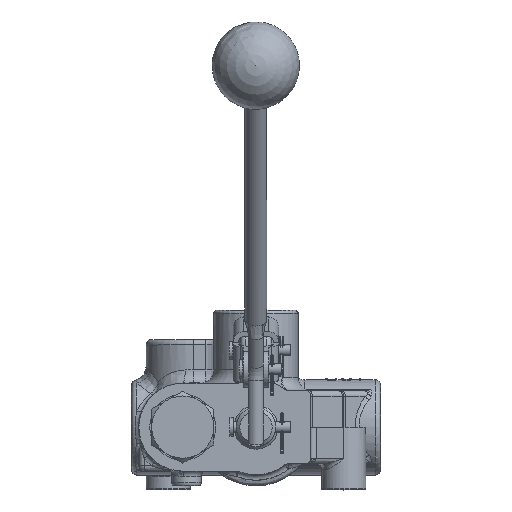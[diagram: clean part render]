
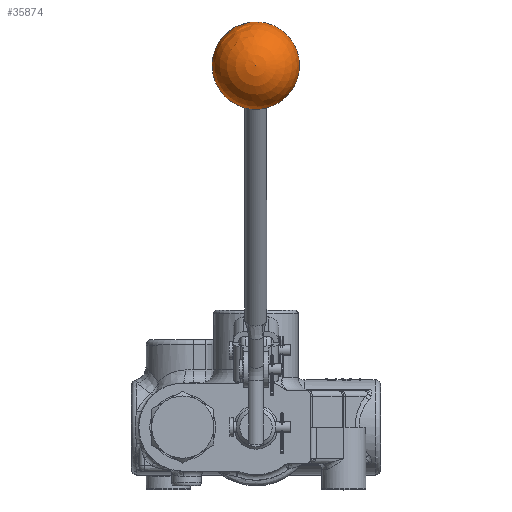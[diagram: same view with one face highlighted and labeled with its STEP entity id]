
A CAD part, top view. The second image highlights one B-rep face of the part: STEP entity #35874.
In plain terms, the highlighted spherical face has radius 19.05 mm.
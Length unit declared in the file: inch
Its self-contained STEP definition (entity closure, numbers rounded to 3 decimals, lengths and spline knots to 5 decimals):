
#35823=CARTESIAN_POINT('',(0.10922,5.43664,4.13279));
#35824=VERTEX_POINT('',#35823);
#35825=CARTESIAN_POINT('',(-0.003,5.58968,3.8993));
#35826=DIRECTION('',(0.,0.836,0.548));
#35827=DIRECTION('',(0.373,-0.509,0.776));
#35828=AXIS2_PLACEMENT_3D('',#35825,#35826,#35827);
#35829=CIRCLE('',#35828,0.30088);
#35830=EDGE_CURVE('',#35824,#35824,#35829,.T.);
#35866=CARTESIAN_POINT('',(-0.003,6.16426,4.2759));
#35867=DIRECTION('',(0.0,0.0,1.0));
#35868=DIRECTION('',(1.0,0.0,0.0));
#35869=AXIS2_PLACEMENT_3D('',#35866,#35867,#35868);
#35870=SPHERICAL_SURFACE('',#35869,0.75);
#35871=ORIENTED_EDGE('',*,*,#35830,.T.);
#35872=EDGE_LOOP('',(#35871));
#35873=FACE_OUTER_BOUND('',#35872,.T.);
#35874=ADVANCED_FACE('',(#35873),#35870,.T.);
